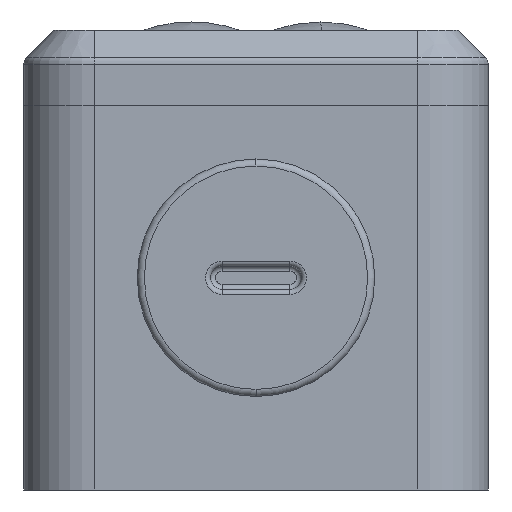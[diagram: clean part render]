
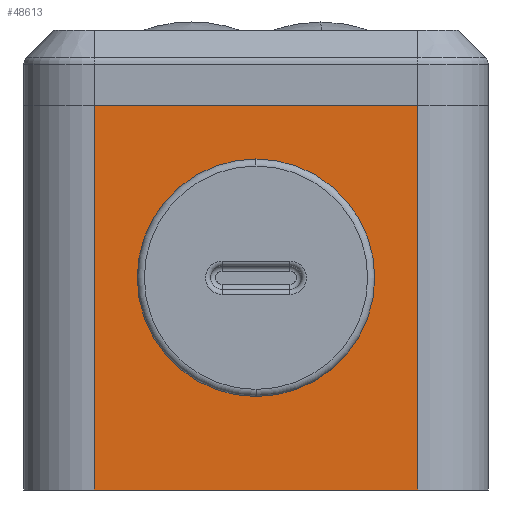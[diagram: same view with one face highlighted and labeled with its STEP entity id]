
A CAD part, front view. The second image highlights one B-rep face of the part: STEP entity #48613.
In plain terms, the highlighted planar face has unit normal (0, -1, 0).
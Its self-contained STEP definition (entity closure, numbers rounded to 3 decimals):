
#9644 = ORIENTED_EDGE ( 'NONE', *, *, #24258, .T. ) ;
#9646 = ORIENTED_EDGE ( 'NONE', *, *, #23005, .T. ) ;
#9648 = ORIENTED_EDGE ( 'NONE', *, *, #22946, .T. ) ;
#9650 = ORIENTED_EDGE ( 'NONE', *, *, #23017, .T. ) ;
#9652 = ORIENTED_EDGE ( 'NONE', *, *, #23001, .F. ) ;
#9654 = ORIENTED_EDGE ( 'NONE', *, *, #23010, .T. ) ;
#19874 = CARTESIAN_POINT ( 'NONE',  ( 0., -124., 10.6 ) ) ;
#19937 = CARTESIAN_POINT ( 'NONE',  ( 0., -124., 31.4 ) ) ;
#22946 = EDGE_CURVE ( 'NONE', #34409, #34418, #59234, .T. ) ;
#23001 = EDGE_CURVE ( 'NONE', #35017, #34569, #59336, .T. ) ;
#23005 = EDGE_CURVE ( 'NONE', #105879, #105767, #59344, .T. ) ;
#23010 = EDGE_CURVE ( 'NONE', #35017, #34409, #59351, .T. ) ;
#23017 = EDGE_CURVE ( 'NONE', #34418, #34569, #59339, .T. ) ;
#24258 = EDGE_CURVE ( 'NONE', #105767, #105879, #72472, .T. ) ;
#34409 = VERTEX_POINT ( 'NONE', #36678 ) ;
#34418 = VERTEX_POINT ( 'NONE', #36687 ) ;
#34569 = VERTEX_POINT ( 'NONE', #36838 ) ;
#35017 = VERTEX_POINT ( 'NONE', #37329 ) ;
#36678 = CARTESIAN_POINT ( 'NONE',  ( -16., -124., 0. ) ) ;
#36687 = CARTESIAN_POINT ( 'NONE',  ( 16., -124., 0. ) ) ;
#36838 = CARTESIAN_POINT ( 'NONE',  ( 16., -124., 38. ) ) ;
#37329 = CARTESIAN_POINT ( 'NONE',  ( -16., -124., 38. ) ) ;
#48613 = ADVANCED_FACE ( 'NONE', ( #49421, #49429 ), #65566, .F. ) ;
#49421 = FACE_BOUND ( 'NONE', #80916, .T. ) ;
#49429 = FACE_OUTER_BOUND ( 'NONE', #80938, .T. ) ;
#49716 = AXIS2_PLACEMENT_3D ( 'NONE', #61723, #61737, #61738 ) ;
#51273 = AXIS2_PLACEMENT_3D ( 'NONE', #71218, #71222, #71224 ) ;
#52040 = AXIS2_PLACEMENT_3D ( 'NONE', #65567, #65572, #65573 ) ;
#59234 = LINE ( 'NONE', #61586, #59246 ) ;
#59246 = VECTOR ( 'NONE', #61589, 1000. ) ;
#59336 = LINE ( 'NONE', #61728, #59337 ) ;
#59337 = VECTOR ( 'NONE', #61729, 1000. ) ;
#59339 = LINE ( 'NONE', #61766, #59363 ) ;
#59344 = CIRCLE ( 'NONE', #49716, 10.4 ) ;
#59351 = LINE ( 'NONE', #61747, #59352 ) ;
#59352 = VECTOR ( 'NONE', #61748, 1000. ) ;
#59363 = VECTOR ( 'NONE', #61767, 1000. ) ;
#61586 = CARTESIAN_POINT ( 'NONE',  ( -23., -124., 0. ) ) ;
#61589 = DIRECTION ( 'NONE',  ( 1., 0., 0. ) ) ;
#61723 = CARTESIAN_POINT ( 'NONE',  ( 0., -124., 21. ) ) ;
#61728 = CARTESIAN_POINT ( 'NONE',  ( -23., -124., 38. ) ) ;
#61729 = DIRECTION ( 'NONE',  ( 1., 0., 0. ) ) ;
#61737 = DIRECTION ( 'NONE',  ( 0., 1., 0. ) ) ;
#61738 = DIRECTION ( 'NONE',  ( 0., 0., 1. ) ) ;
#61747 = CARTESIAN_POINT ( 'NONE',  ( -16., -124., 38. ) ) ;
#61748 = DIRECTION ( 'NONE',  ( 0., 0., -1. ) ) ;
#61766 = CARTESIAN_POINT ( 'NONE',  ( 16., -124., 38. ) ) ;
#61767 = DIRECTION ( 'NONE',  ( 0., 0., 1. ) ) ;
#65566 = PLANE ( 'NONE',  #52040 ) ;
#65567 = CARTESIAN_POINT ( 'NONE',  ( -23., -124., 38. ) ) ;
#65572 = DIRECTION ( 'NONE',  ( 0., 1., 0. ) ) ;
#65573 = DIRECTION ( 'NONE',  ( 0., 0., 1. ) ) ;
#71218 = CARTESIAN_POINT ( 'NONE',  ( 0., -124., 21. ) ) ;
#71222 = DIRECTION ( 'NONE',  ( 0., 1., 0. ) ) ;
#71224 = DIRECTION ( 'NONE',  ( 0., 0., 1. ) ) ;
#72472 = CIRCLE ( 'NONE', #51273, 10.4 ) ;
#80916 = EDGE_LOOP ( 'NONE', ( #9644, #9646 ) ) ;
#80938 = EDGE_LOOP ( 'NONE', ( #9648, #9650, #9652, #9654 ) ) ;
#105767 = VERTEX_POINT ( 'NONE', #19874 ) ;
#105879 = VERTEX_POINT ( 'NONE', #19937 ) ;
